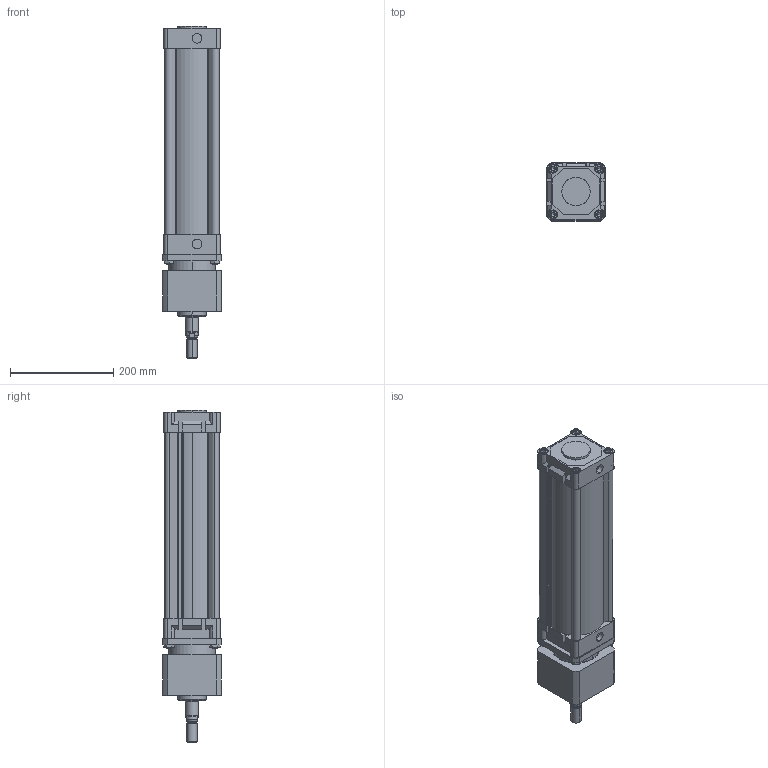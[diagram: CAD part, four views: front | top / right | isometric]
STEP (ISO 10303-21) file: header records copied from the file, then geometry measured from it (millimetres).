
FILE_DESCRIPTION (( 'STEP AP214' ), '1' );
FILE_NAME ('WALCK-100-0300 (MDMY).STEP', '2017-07-27T12:59:22', ( 'Hidtek' ), ( '' ), 'SwSTEP 2.0', 'SolidWorks 2016', '' );
FILE_SCHEMA (( 'AUTOMOTIVE_DESIGN' ));
Length unit declared in the file: millimetre
Products named in the file (4): Group2^WALCK-100-0300 (MDMY); Group1^WALCK-100-0300 (MDMY); WALCK-100-0300 (MDMY); WI-RDLCK-100 (3DMY)-1^WALCK-100-0300 (MDMY)
Assembly tree (3 placements, depth 2):
  WALCK-100-0300 (MDMY)
    Group1^WALCK-100-0300 (MDMY)
    Group2^WALCK-100-0300 (MDMY)
    WI-RDLCK-100 (3DMY)-1^WALCK-100-0300 (MDMY)
Bounding box: 114 x 114 x 644.01 mm (x, y, z)
Volume: 3608072.6 mm3; surface area: 611095.2 mm2
Topology: 21 solids, 21 shells, 779 faces, 1942 edges, 1256 vertices
Faces by surface type: plane 476, cylinder 171, cone 108, bspline 22, torus 2
Entity records: 26449 total; most frequent: CARTESIAN_POINT 5977, ORIENTED_EDGE 3868, DIRECTION 3730, EDGE_CURVE 1934, VECTOR 1260, LINE 1260, VERTEX_POINT 1256, AXIS2_PLACEMENT_3D 1235
